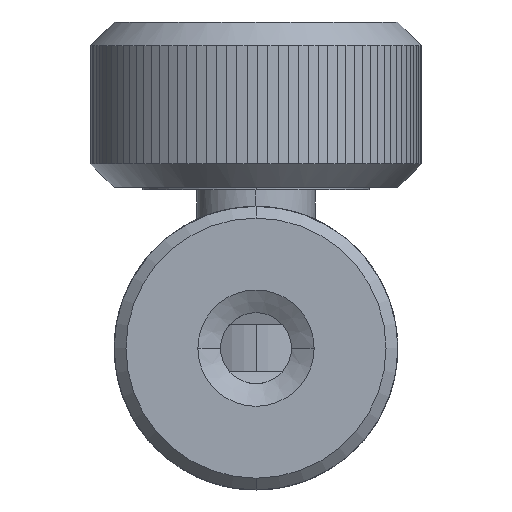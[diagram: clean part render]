
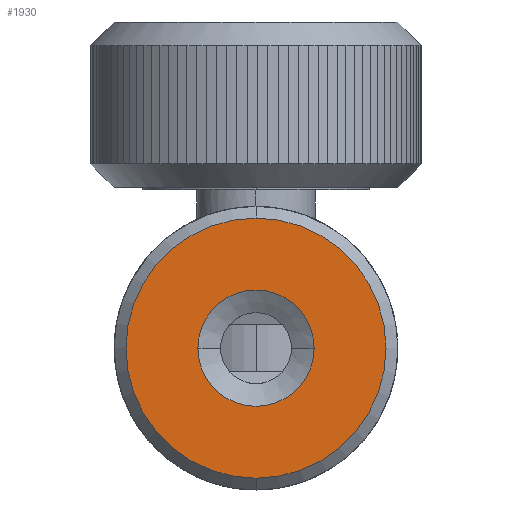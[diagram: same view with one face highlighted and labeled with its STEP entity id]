
A CAD part, left-side view. The second image highlights one B-rep face of the part: STEP entity #1930.
In plain terms, the highlighted planar face has unit normal (-1, 0, 0).
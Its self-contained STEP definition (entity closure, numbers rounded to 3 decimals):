
#14 = VERTEX_POINT ( 'NONE', #1971 ) ;
#60 = EDGE_CURVE ( 'NONE', #61, #14, #2105, .T. ) ;
#61 = VERTEX_POINT ( 'NONE', #2161 ) ;
#1205 = EDGE_CURVE ( 'NONE', #1206, #1222, #4570, .T. ) ;
#1206 = VERTEX_POINT ( 'NONE', #4566 ) ;
#1222 = VERTEX_POINT ( 'NONE', #4596 ) ;
#1822 = EDGE_CURVE ( 'NONE', #1222, #1206, #5437, .T. ) ;
#1855 = EDGE_LOOP ( 'NONE', ( #1856, #1857 ) ) ;
#1856 = ORIENTED_EDGE ( 'NONE', *, *, #60, .F. ) ;
#1857 = ORIENTED_EDGE ( 'NONE', *, *, #1858, .F. ) ;
#1858 = EDGE_CURVE ( 'NONE', #14, #61, #5496, .T. ) ;
#1859 = EDGE_LOOP ( 'NONE', ( #1860, #1910 ) ) ;
#1860 = ORIENTED_EDGE ( 'NONE', *, *, #1205, .T. ) ;
#1910 = ORIENTED_EDGE ( 'NONE', *, *, #1822, .T. ) ;
#1930 = ADVANCED_FACE ( 'NONE', ( #5646, #5645 ), #5644, .T. ) ;
#1971 = CARTESIAN_POINT ( 'NONE',  ( 0., -2.249, 5.5 ) ) ;
#2099 = CARTESIAN_POINT ( 'NONE',  ( 0., -2.249, 0. ) ) ;
#2100 = AXIS2_PLACEMENT_3D ( 'NONE', #2099, #2163, #2162 ) ;
#2105 = CIRCLE ( 'NONE', #2100, 5.5 ) ;
#2161 = CARTESIAN_POINT ( 'NONE',  ( 0., -2.249, -5.5 ) ) ;
#2162 = DIRECTION ( 'NONE',  ( 0., 0., -1. ) ) ;
#2163 = DIRECTION ( 'NONE',  ( 1., 0., 0. ) ) ;
#4517 = CARTESIAN_POINT ( 'NONE',  ( 0., -2.249, 0. ) ) ;
#4566 = CARTESIAN_POINT ( 'NONE',  ( 0., -4.707, 0. ) ) ;
#4567 = DIRECTION ( 'NONE',  ( 0., -1., 0. ) ) ;
#4568 = DIRECTION ( 'NONE',  ( 1., 0., 0. ) ) ;
#4569 = AXIS2_PLACEMENT_3D ( 'NONE', #4517, #4568, #4567 ) ;
#4570 = CIRCLE ( 'NONE', #4569, 2.458 ) ;
#4596 = CARTESIAN_POINT ( 'NONE',  ( 0., 0.21, 0. ) ) ;
#5433 = DIRECTION ( 'NONE',  ( 0., -1., 0. ) ) ;
#5434 = DIRECTION ( 'NONE',  ( 1., 0., 0. ) ) ;
#5435 = CARTESIAN_POINT ( 'NONE',  ( 0., -2.249, 0. ) ) ;
#5436 = AXIS2_PLACEMENT_3D ( 'NONE', #5435, #5434, #5433 ) ;
#5437 = CIRCLE ( 'NONE', #5436, 2.458 ) ;
#5492 = DIRECTION ( 'NONE',  ( 0., 0., -1. ) ) ;
#5493 = DIRECTION ( 'NONE',  ( 1., 0., 0. ) ) ;
#5494 = CARTESIAN_POINT ( 'NONE',  ( 0., -2.249, 0. ) ) ;
#5495 = AXIS2_PLACEMENT_3D ( 'NONE', #5494, #5493, #5492 ) ;
#5496 = CIRCLE ( 'NONE', #5495, 5.5 ) ;
#5640 = DIRECTION ( 'NONE',  ( 0., -1., 0. ) ) ;
#5641 = DIRECTION ( 'NONE',  ( -1., 0., 0. ) ) ;
#5642 = CARTESIAN_POINT ( 'NONE',  ( 0., 0.751, 0. ) ) ;
#5643 = AXIS2_PLACEMENT_3D ( 'NONE', #5642, #5641, #5640 ) ;
#5644 = PLANE ( 'NONE',  #5643 ) ;
#5645 = FACE_BOUND ( 'NONE', #1859, .T. ) ;
#5646 = FACE_OUTER_BOUND ( 'NONE', #1855, .T. ) ;
